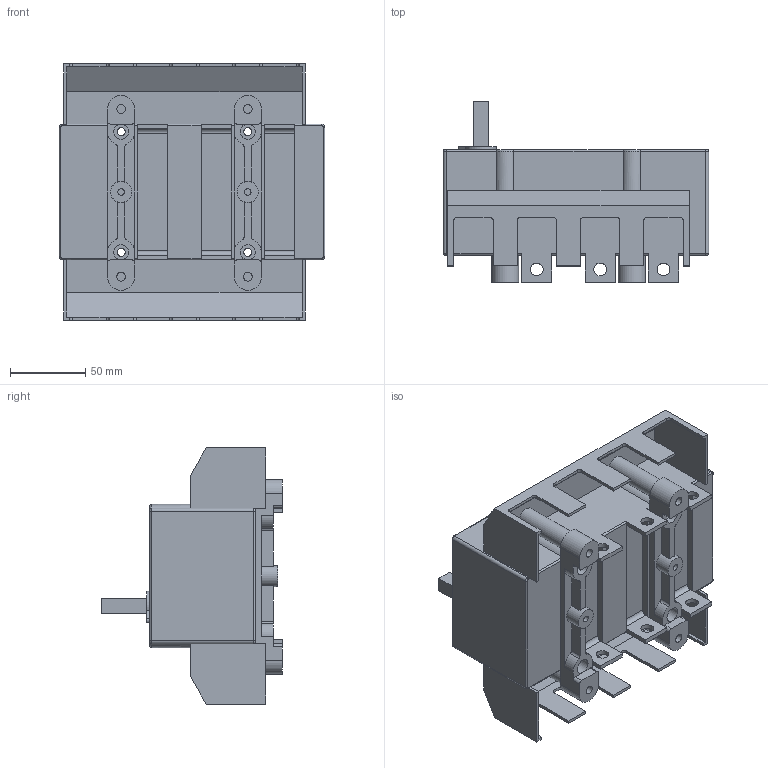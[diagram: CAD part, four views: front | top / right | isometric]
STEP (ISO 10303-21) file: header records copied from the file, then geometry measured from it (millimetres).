
FILE_DESCRIPTION(/* description */ (''),/* implementation_level */ '2;1');
FILE_NAME(/* name */ 'RA160 P3 C z oslona zaciskow.stp',/* time_stamp */ '2021-08-17T14:54:09+02:00',/* author */ (''),/* organization */ (''),/* preprocessor_version */ 'ST-DEVELOPER v18.1',/* originating_system */ 'SIEMENS PLM Software NX 1965',/* authorisation */ '');
FILE_SCHEMA (('AUTOMOTIVE_DESIGN { 1 0 10303 214 3 1 1 1 }'));
Length unit declared in the file: millimetre
Products named in the file (1): RA160 P3 C z oslona zaciskow_stp
Bounding box: 176 x 120 x 169.8 mm (x, y, z)
Volume: 1209277.6 mm3; surface area: 156894 mm2
Topology: 1 solids, 1 shells, 302 faces, 864 edges, 562 vertices
Faces by surface type: plane 166, cylinder 124, torus 7, bspline 5
Full cylindrical faces by diameter (mm): 4.3 x2, 5.3 x4, 5.8 x4, 8.5 x6, 10 x12, 13 x4, 14 x2
Entity records: 9751 total; most frequent: CARTESIAN_POINT 1814, DIRECTION 1664, ORIENTED_EDGE 1620, EDGE_CURVE 810, AXIS2_PLACEMENT_3D 572, VERTEX_POINT 542, LINE 520, VECTOR 520
